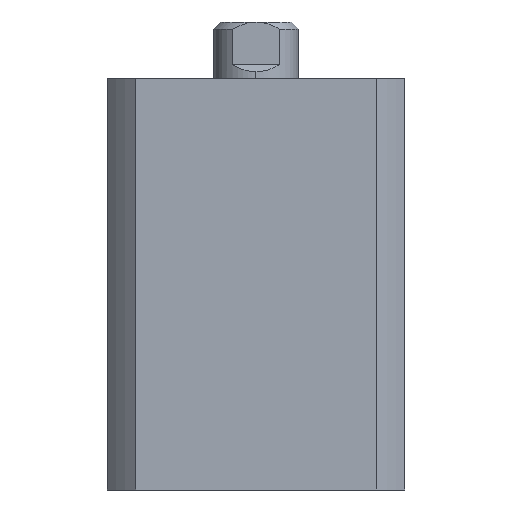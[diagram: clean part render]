
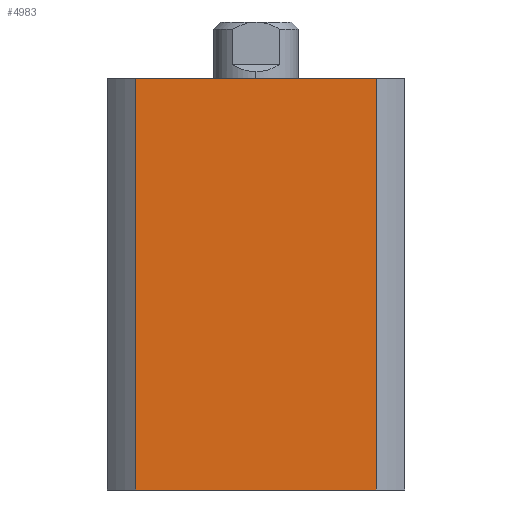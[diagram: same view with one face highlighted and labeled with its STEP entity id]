
A CAD part, left-side view. The second image highlights one B-rep face of the part: STEP entity #4983.
In plain terms, the highlighted planar face has unit normal (-1, 0, 0).
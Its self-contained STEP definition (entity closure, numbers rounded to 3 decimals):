
#361 = DIRECTION ( 'NONE',  ( 0., 0., 1. ) ) ;
#362 = CARTESIAN_POINT ( 'NONE',  ( -21., 16.971, 58. ) ) ;
#373 = DIRECTION ( 'NONE',  ( 0., 0., -1. ) ) ;
#375 = CARTESIAN_POINT ( 'NONE',  ( -21., -16.971, 58. ) ) ;
#497 = CARTESIAN_POINT ( 'NONE',  ( -21., 21., 58. ) ) ;
#501 = DIRECTION ( 'NONE',  ( 0., -1., 0. ) ) ;
#538 = CARTESIAN_POINT ( 'NONE',  ( -21., 21., 0. ) ) ;
#558 = DIRECTION ( 'NONE',  ( 0., -1., 0. ) ) ;
#1050 = ORIENTED_EDGE ( 'NONE', *, *, #3322, .T. ) ;
#1099 = ORIENTED_EDGE ( 'NONE', *, *, #3421, .F. ) ;
#1364 = ORIENTED_EDGE ( 'NONE', *, *, #3380, .F. ) ;
#1377 = ORIENTED_EDGE ( 'NONE', *, *, #3422, .F. ) ;
#1475 = FACE_OUTER_BOUND ( 'NONE', #4803, .T. ) ;
#1592 = VECTOR ( 'NONE', #361, 1000. ) ;
#1595 = VECTOR ( 'NONE', #373, 1000. ) ;
#1596 = LINE ( 'NONE', #362, #1592 ) ;
#1597 = LINE ( 'NONE', #375, #1595 ) ;
#1659 = VECTOR ( 'NONE', #501, 1000. ) ;
#1665 = LINE ( 'NONE', #497, #1659 ) ;
#1754 = VECTOR ( 'NONE', #558, 1000. ) ;
#1756 = LINE ( 'NONE', #538, #1754 ) ;
#2102 = DIRECTION ( 'NONE',  ( 0., 1., 0. ) ) ;
#2103 = DIRECTION ( 'NONE',  ( 1., 0., 0. ) ) ;
#2107 = PLANE ( 'NONE',  #3733 ) ;
#2111 = CARTESIAN_POINT ( 'NONE',  ( -21., 21., 58. ) ) ;
#3322 = EDGE_CURVE ( 'NONE', #4442, #4524, #1756, .T. ) ;
#3380 = EDGE_CURVE ( 'NONE', #4521, #4513, #1665, .T. ) ;
#3421 = EDGE_CURVE ( 'NONE', #4513, #4524, #1597, .T. ) ;
#3422 = EDGE_CURVE ( 'NONE', #4442, #4521, #1596, .T. ) ;
#3733 = AXIS2_PLACEMENT_3D ( 'NONE', #2111, #2103, #2102 ) ;
#3881 = CARTESIAN_POINT ( 'NONE',  ( -21., 16.971, 0. ) ) ;
#4289 = CARTESIAN_POINT ( 'NONE',  ( -21., -16.971, 0. ) ) ;
#4292 = CARTESIAN_POINT ( 'NONE',  ( -21., 16.971, 58. ) ) ;
#4301 = CARTESIAN_POINT ( 'NONE',  ( -21., -16.971, 58. ) ) ;
#4442 = VERTEX_POINT ( 'NONE', #3881 ) ;
#4513 = VERTEX_POINT ( 'NONE', #4301 ) ;
#4521 = VERTEX_POINT ( 'NONE', #4292 ) ;
#4524 = VERTEX_POINT ( 'NONE', #4289 ) ;
#4803 = EDGE_LOOP ( 'NONE', ( #1099, #1364, #1377, #1050 ) ) ;
#4983 = ADVANCED_FACE ( 'NONE', ( #1475 ), #2107, .F. ) ;
